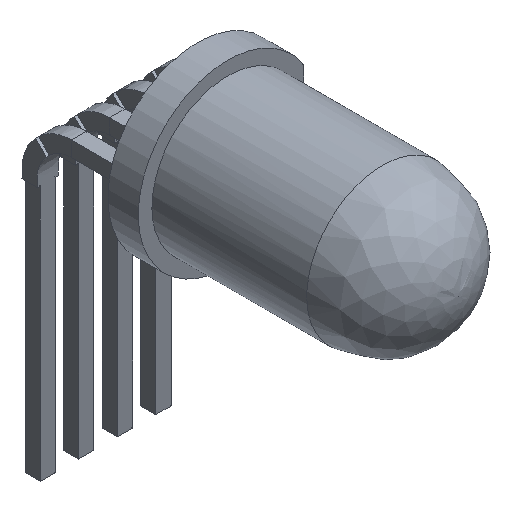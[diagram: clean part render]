
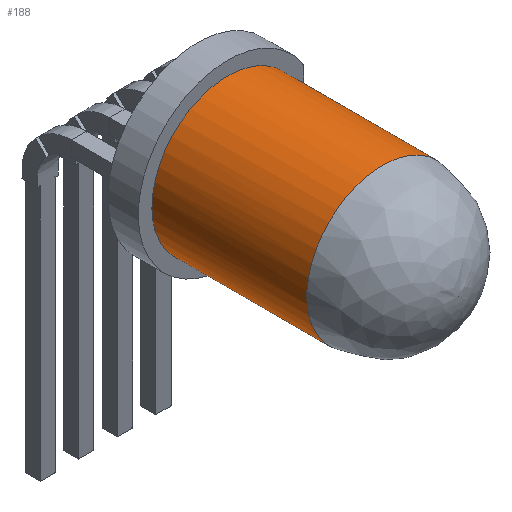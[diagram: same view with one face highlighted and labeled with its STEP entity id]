
A CAD part, isometric view. The second image highlights one B-rep face of the part: STEP entity #188.
In plain terms, the highlighted cylindrical face has radius 2.5 mm (diameter 5 mm), a full revolution.
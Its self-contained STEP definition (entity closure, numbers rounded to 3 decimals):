
#20=CYLINDRICAL_SURFACE('',#1388,2.5);
#35=(
BOUNDED_CURVE()
B_SPLINE_CURVE(2,(#4839,#4840,#4841,#4842,#4843,#4844,#4845),
 .UNSPECIFIED.,.F.,.F.)
B_SPLINE_CURVE_WITH_KNOTS((3,2,2,3),(-15.708,-11.781,
-7.854,-3.927),.UNSPECIFIED.)
CURVE()
GEOMETRIC_REPRESENTATION_ITEM()
RATIONAL_B_SPLINE_CURVE((1.,0.707,1.,0.707,1.,0.707,
1.))
REPRESENTATION_ITEM('')
);
#36=(
BOUNDED_CURVE()
B_SPLINE_CURVE(1,(#4846,#4847),.UNSPECIFIED.,.F.,.F.)
B_SPLINE_CURVE_WITH_KNOTS((2,2),(1.,6.1),.UNSPECIFIED.)
CURVE()
GEOMETRIC_REPRESENTATION_ITEM()
RATIONAL_B_SPLINE_CURVE((1.,1.))
REPRESENTATION_ITEM('')
);
#41=(
BOUNDED_CURVE()
B_SPLINE_CURVE(2,(#4872,#4873,#4874),.UNSPECIFIED.,.F.,.F.)
B_SPLINE_CURVE_WITH_KNOTS((3,3),(-3.927,0.),.UNSPECIFIED.)
CURVE()
GEOMETRIC_REPRESENTATION_ITEM()
RATIONAL_B_SPLINE_CURVE((1.,0.707,1.))
REPRESENTATION_ITEM('')
);
#42=(
BOUNDED_CURVE()
B_SPLINE_CURVE(2,(#4875,#4876,#4877,#4878,#4879,#4880,#4881,#4882,#4883,
#4884,#4885),.UNSPECIFIED.,.T.,.F.)
B_SPLINE_CURVE_WITH_KNOTS((3,2,2,2,2,3),(-15.708,-12.763,
-9.817,-6.872,-3.927,0.),.UNSPECIFIED.)
CURVE()
GEOMETRIC_REPRESENTATION_ITEM()
RATIONAL_B_SPLINE_CURVE((1.,0.831,1.,0.831,1.,0.831,
1.,0.831,1.,0.707,1.))
REPRESENTATION_ITEM('')
);
#188=ADVANCED_FACE('',(#268),#20,.T.);
#268=FACE_OUTER_BOUND('',#352,.T.);
#352=EDGE_LOOP('',(#723,#724,#725,#726,#727));
#723=ORIENTED_EDGE('',*,*,#926,.F.);
#724=ORIENTED_EDGE('',*,*,#934,.F.);
#725=ORIENTED_EDGE('',*,*,#925,.F.);
#726=ORIENTED_EDGE('',*,*,#926,.T.);
#727=ORIENTED_EDGE('',*,*,#935,.T.);
#925=EDGE_CURVE('',#1240,#1245,#35,.T.);
#926=EDGE_CURVE('',#1240,#1239,#36,.T.);
#934=EDGE_CURVE('',#1245,#1240,#41,.T.);
#935=EDGE_CURVE('',#1239,#1239,#42,.T.);
#1239=VERTEX_POINT('',#4805);
#1240=VERTEX_POINT('',#4806);
#1245=VERTEX_POINT('',#4811);
#1388=AXIS2_PLACEMENT_3D('',#4749,#1442,$);
#1442=DIRECTION('',(0.,-1.,0.));
#4749=CARTESIAN_POINT('',(40.,-8.5,7.));
#4805=CARTESIAN_POINT('',(40.,-8.1,4.5));
#4806=CARTESIAN_POINT('',(40.,-3.,4.5));
#4811=CARTESIAN_POINT('',(42.5,-3.,7.));
#4839=CARTESIAN_POINT('',(40.,-3.,4.5));
#4840=CARTESIAN_POINT('',(37.5,-3.,4.5));
#4841=CARTESIAN_POINT('',(37.5,-3.,7.));
#4842=CARTESIAN_POINT('',(37.5,-3.,9.5));
#4843=CARTESIAN_POINT('',(40.,-3.,9.5));
#4844=CARTESIAN_POINT('',(42.5,-3.,9.5));
#4845=CARTESIAN_POINT('',(42.5,-3.,7.));
#4846=CARTESIAN_POINT('',(40.,-3.,4.5));
#4847=CARTESIAN_POINT('',(40.,-8.1,4.5));
#4872=CARTESIAN_POINT('',(42.5,-3.,7.));
#4873=CARTESIAN_POINT('',(42.5,-3.,4.5));
#4874=CARTESIAN_POINT('',(40.,-3.,4.5));
#4875=CARTESIAN_POINT('',(40.,-8.1,4.5));
#4876=CARTESIAN_POINT('',(38.33,-8.1,4.5));
#4877=CARTESIAN_POINT('',(37.69,-8.1,6.043));
#4878=CARTESIAN_POINT('',(37.051,-8.1,7.587));
#4879=CARTESIAN_POINT('',(38.232,-8.1,8.768));
#4880=CARTESIAN_POINT('',(39.413,-8.1,9.949));
#4881=CARTESIAN_POINT('',(40.957,-8.1,9.31));
#4882=CARTESIAN_POINT('',(42.5,-8.1,8.67));
#4883=CARTESIAN_POINT('',(42.5,-8.1,7.));
#4884=CARTESIAN_POINT('',(42.5,-8.1,4.5));
#4885=CARTESIAN_POINT('',(40.,-8.1,4.5));
